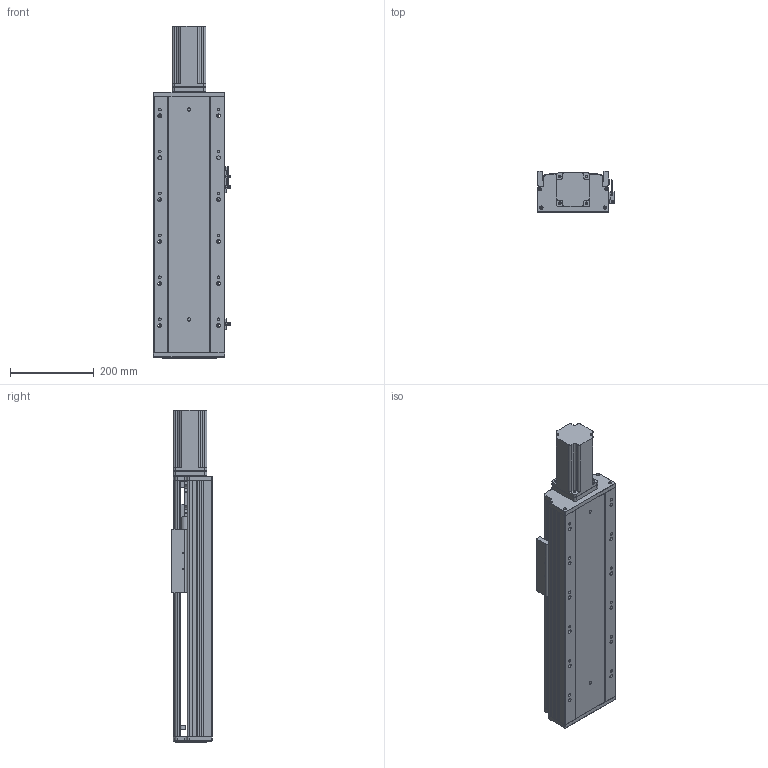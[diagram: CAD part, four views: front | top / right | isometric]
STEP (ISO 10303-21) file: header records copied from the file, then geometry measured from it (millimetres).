
FILE_DESCRIPTION (( 'STEP AP203' ), '1' );
FILE_NAME ('RY170-L2510-300-MK(FK17).SLDASM_默认.step', '2022-08-23T01:59:58', ( '' ), ( '' ), 'SwSTEP 2.0', 'SolidWorks 2016', '' );
FILE_SCHEMA (( 'CONFIG_CONTROL_DESIGN' ));
Length unit declared in the file: millimetre
Products named in the file (15): RY170ヶ醱裔啣; 滅袉蝶18-10; RY170-L2510-300-MK(FK17).SLDASM_默认; 15; 750W萇儂梓袧蛌諉啣; RY170-300倰第裔啣-MK; RY170电机端支撑座(25丝杆7004轴承)-压铸(FK17); 侂狟750W萇儂ㄗ80遺ㄘ; RY170-300倰第菁釱-MK; 滅袉蝶18-28; RY170綴裔啣; 侂狟400W侜督萇儂; RY170外置感应片(200共用）; RY170臏賑輸25佪裝蹟譫; 覜茼ん672
Assembly tree (16 placements, depth 3):
  RY170-L2510-300-MK(FK17).SLDASM_默认
    RY170-300倰第菁釱-MK
    RY170-300倰第裔啣-MK
    RY170臏賑輸25佪裝蹟譫
    侂狟400W侜督萇儂
      15
    RY170綴裔啣
    RY170电机端支撑座(25丝杆7004轴承)-压铸(FK17)
    覜茼ん672  x3
    RY170外置感应片(200共用）
    RY170ヶ醱裔啣
    滅袉蝶18-28
    滅袉蝶18-10
    侂狟750W萇儂ㄗ80遺ㄘ
    750W萇儂梓袧蛌諉啣
Bounding box: 183.7 x 97 x 791 mm (x, y, z)
Volume: 4821758 mm3; surface area: 1268954.4 mm2
Topology: 15 solids, 15 shells, 2129 faces, 6063 edges, 3892 vertices
Faces by surface type: plane 1014, cylinder 872, cone 207, bspline 36
Entity records: 68447 total; most frequent: CARTESIAN_POINT 15710, ORIENTED_EDGE 10906, DIRECTION 10543, EDGE_CURVE 5453, AXIS2_PLACEMENT_3D 3646, VERTEX_POINT 3572, LINE 3251, VECTOR 3251
